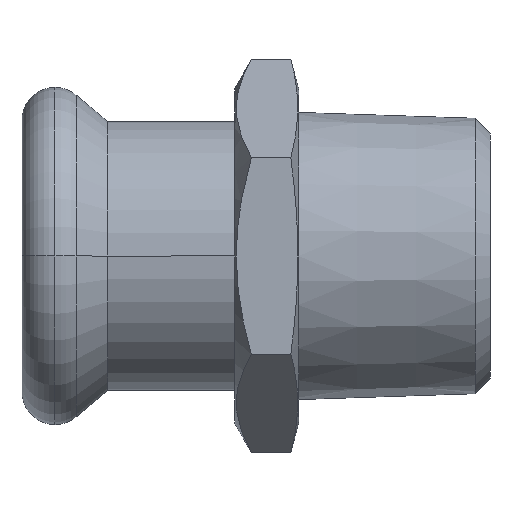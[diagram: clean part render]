
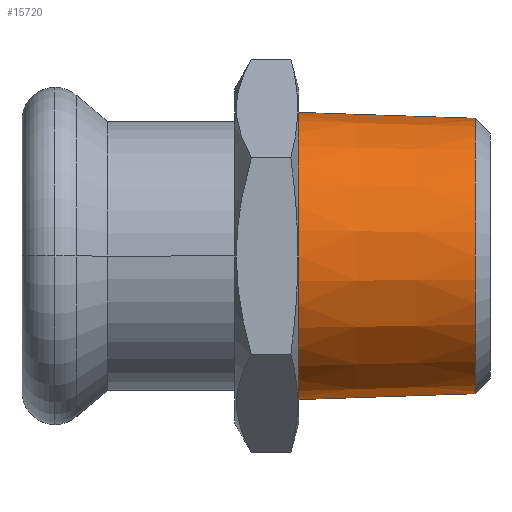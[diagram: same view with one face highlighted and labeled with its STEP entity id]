
A CAD part, front view. The second image highlights one B-rep face of the part: STEP entity #15720.
In plain terms, the highlighted conical face has half-angle 1.909 degrees and reference radius 13.5 mm.
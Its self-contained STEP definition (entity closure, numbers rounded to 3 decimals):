
#560=CARTESIAN_POINT('',(-52.97,-198.006,
0.));
#570=DIRECTION('',(-1.,0.,0.));
#580=DIRECTION('',(0.,0.,1.));
#590=AXIS2_PLACEMENT_3D('',#560,#570,#580);
#600=CIRCLE('',#590,12.947);
#630=CARTESIAN_POINT('',(-52.97,-198.006,-12.947
));
#640=VERTEX_POINT('',#630);
#920=CARTESIAN_POINT('',(-52.97,-198.006,12.947)
);
#930=VERTEX_POINT('',#920);
#1010=CARTESIAN_POINT('',(-69.571,-198.006,
0.));
#1020=DIRECTION('',(-1.,0.,0.));
#1030=DIRECTION('',(0.,0.,1.));
#1040=AXIS2_PLACEMENT_3D('',#1010,#1020,#1030);
#1050=CONICAL_SURFACE('',#1040,13.5,0.033);
#1060=CARTESIAN_POINT('',(-69.571,-198.006,13.5));
#1070=DIRECTION('',(-0.999,0.,0.033));
#1080=VECTOR('',#1070,405.225);
#1090=LINE('',#1060,#1080);
#1100=CARTESIAN_POINT('',(-69.571,-198.006,13.5));
#1110=VERTEX_POINT('',#1100);
#1120=EDGE_CURVE('',#930,#1110,#1090,.T.);
#1140=CARTESIAN_POINT('',(-69.571,-198.006,
0.));
#1150=DIRECTION('',(-1.,0.,0.));
#1160=DIRECTION('',(0.,0.,1.));
#1170=AXIS2_PLACEMENT_3D('',#1140,#1150,#1160);
#1180=CIRCLE('',#1170,13.5);
#1230=CARTESIAN_POINT('',(-69.571,-198.006,-13.5));
#1240=VERTEX_POINT('',#1230);
#1270=CARTESIAN_POINT('',(-69.571,-198.006,-13.5));
#1280=DIRECTION('',(-0.999,0.,-0.033));
#1290=VECTOR('',#1280,405.225);
#1300=LINE('',#1270,#1290);
#1310=EDGE_CURVE('',#640,#1240,#1300,.T.);
#5740=EDGE_CURVE('',#1240,#1110,#1180,.T.);
#15650=EDGE_CURVE('',#640,#930,#600,.T.);
#15660=ORIENTED_EDGE('',*,*,#15650,.T.);
#15670=ORIENTED_EDGE('',*,*,#1310,.F.);
#15680=ORIENTED_EDGE('',*,*,#5740,.F.);
#15690=ORIENTED_EDGE('',*,*,#1120,.T.);
#15700=EDGE_LOOP('',(#15690,#15680,#15670,#15660));
#15710=FACE_OUTER_BOUND('',#15700,.T.);
#15720=ADVANCED_FACE('',(#15710),#1050,.T.);
